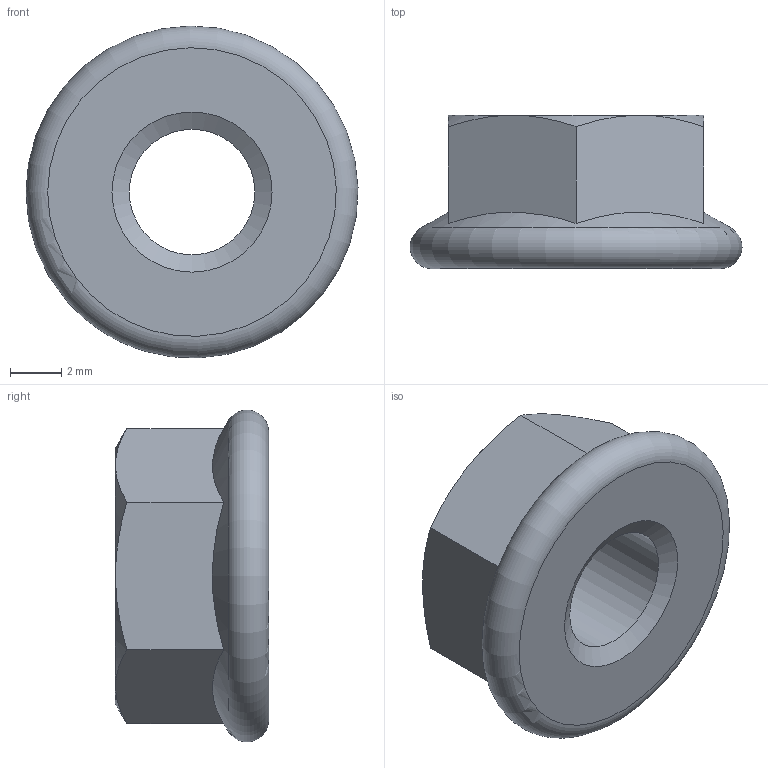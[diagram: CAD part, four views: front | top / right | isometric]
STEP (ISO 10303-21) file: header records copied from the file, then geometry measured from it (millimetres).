
FILE_DESCRIPTION(/* description */ (''),/* implementation_level */ '2;1');
FILE_NAME(/* name */ 'C:\Users\unitec\Documents\Inventor\HP\ナット\JIS B 1190 フランジ付ナット\f-nut_m6.stp',/* time_stamp */ '2017-09-12T15:57:20+09:00',/* author */ ('unitec'),/* organization */ (''),/* preprocessor_version */ 'ST-DEVELOPER v15.2',/* originating_system */ 'Autodesk Inventor 2014',/* authorisation */ '');
FILE_SCHEMA (('AUTOMOTIVE_DESIGN { 1 0 10303 214 3 1 1 }'));
Length unit declared in the file: millimetre
Products named in the file (1): f-nut_m6
Bounding box: 13 x 6 x 12.99 mm (x, y, z)
Volume: 469.2 mm3; surface area: 485.9 mm2
Topology: 1 solids, 1 shells, 19 faces, 44 edges, 27 vertices
Faces by surface type: cone 9, plane 8, cylinder 1, torus 1
Full cylindrical faces by diameter (mm): 4.917 x1
Entity records: 489 total; most frequent: CARTESIAN_POINT 116, ORIENTED_EDGE 72, DIRECTION 70, EDGE_CURVE 36, AXIS2_PLACEMENT_3D 32, EDGE_LOOP 26, VERTEX_POINT 24, FACE_OUTER_BOUND 19
